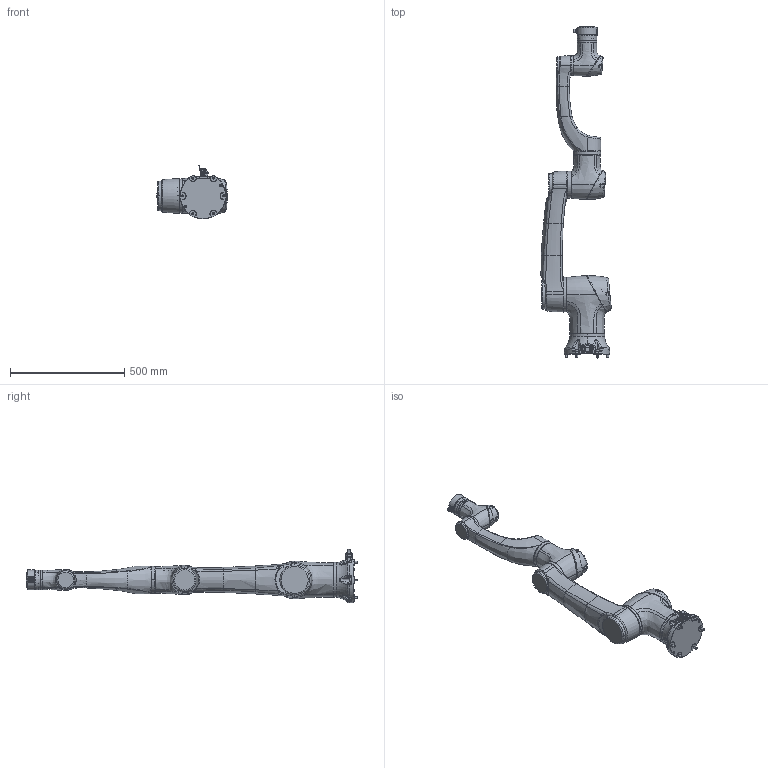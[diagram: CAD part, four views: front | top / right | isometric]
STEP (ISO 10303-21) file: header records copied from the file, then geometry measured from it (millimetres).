
FILE_DESCRIPTION (( 'STEP AP214' ), '1' );
FILE_NAME ('E10、P10-IP66、压铸、总线末端机械手模型_20220707.STEP', '2022-07-29T03:15:49', ( '' ), ( '' ), 'SwSTEP 2.0', 'SolidWorks 2020', '' );
FILE_SCHEMA (( 'AUTOMOTIVE_DESIGN' ));
Length unit declared in the file: millimetre
Products named in the file (66): Part7.1^12B2(2); Elfin_菁釱脣芛; 10kg菁釱耀倰_20220706; Part1^12B2(2)_12B2-带蓝灯-IP67防水-自复红波按钮2; 10kg奻旋耜裔耀倰_20220706; E10F奻旋耀倰_20220706; Part22^12B2(2); Part30^12B2(2); Part22^12B2(2)_12B2-带蓝灯-IP67防水-自复红波按钮2; 10kg狟旋狟耜裔耀倰_20220706; 17藺傷蛌諉輸耀倰_IP66; Part5.1^12B2(2); 17粣藺傷耀倰_IP66_20220707; E10F狟旋郪璃耀倰_20220706; M3x14_IP66_20190806_2.0_CB3-16; 17axial_module_妗极耀倰_20220705; Part6; Part5.1^12B2(2)_12B2-带蓝灯-IP67防水-自复红波按钮2; 5-10kg藺傷俋褲耀倰_IP66; HREF-01-03-33A2 5kg狟旋狟耜裔_IP66; Part28.1.1^12B2(2); 32耀郪妗极耀倰_20220705; 瑤脣蹟譫; Elfin_菁釱郪璃_脣芛裔; 12B2(2); Part13.1.2^12B2(2); 25axial_module_耀倰_20220705; 1419713; Part28.1.1.1^12B2(2); Part13.1.2^12B2(2)_12B2-带蓝灯-IP67防水-自复红波按钮2; Part13.1^12B2(2); GB／T70．1-2000内六角圆柱头螺钉M8×30; Symmetry of Part5^12B2(2)_12B2-带蓝灯-IP67防水-自复红波按钮2; Part16^12B2(2); 12B2(2)^12B2-带蓝灯-IP67防水-自复红波按钮2; HREF-01-04-01-203A1 25模组后端盖_增加锥形孔; 32axial_module_耀倰_20220627; Part30^12B2(2)_12B2-带蓝灯-IP67防水-自复红波按钮2; Part1^12B2(2); hexagon socket head cap screws gb_GB_FASTENER_SCREWS_HSHCS M4X30-N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
Assembly tree (85 placements, depth 5):
  E10、P10-IP66、压铸、总线末端机械手模型_20220707
    10kg菁釱耀倰_20220706
      10kg菁釱耀倰_20220706
      Elfin_菁釱脣芛
        Elfin_菁釱郪璃_脣芛釱
        Elfin_菁釱郪璃_脣芛裔
        Elfin_底座组件_插头卡环
    32axial_module_耀倰_20220627
      32耀郪妗极耀倰_20220705
      32模组后端盖模型_增加锥形孔
      M3x14_IP66_20190806_2.0_CB3-16  x4
    E10F狟旋郪璃耀倰_20220706
      E10F狟旋耀倰_20220706
      HREF-01-03-33A2 5kg狟旋狟耜裔_IP66
      10kg狟旋狟耜裔耀倰_20220706
    25axial_module_耀倰_20220705
      M3x14_IP66_20190806_2.0_CB3-16  x4
      HREF-01-04-01-165A1 25壽誹俋褲YZ
      HREF-01-04-01-203A1 25模组后端盖_增加锥形孔
    E10F奻旋耀倰_20220706
      E10F奻旋耀倰_20220706
      10kg奻旋耜裔耀倰_20220706
    17axial_module_妗极耀倰_20220705
      17粣耀郪妗极耀倰
      HREF-01-04-04-125A1 17模组后端盖_增加锥形孔
      M3x14_IP66_20190806_2.0_CB3-16  x4
    GB／T70．1-2000内六角圆柱头螺钉M8×30  x6
    17粣藺傷耀倰_IP66_20220707
      5-10kg藺傷俋褲耀倰_IP66
      1419713
      12B2-带蓝灯-IP67防水-自复红波按钮
        12B2(2)
          Part7^12B2(2)
          Part5^12B2(2)
          Part5.1^12B2(2)
          Symmetry of Part5^12B2(2)
          Symmetry of Part5.1^12B2(2)
          Part13.1.2^12B2(2)
          Part30^12B2(2)
          Part13.1^12B2(2)
          Part6^12B2(2)
          Part28.1.1^12B2(2)
          Part1^12B2(2)
          Part7.1^12B2(2)
          Part16^12B2(2)
          Part22^12B2(2)
          Part28.1.1.1^12B2(2)
          M12金属按钮开关螺母
      12B2(2)^12B2-带蓝灯-IP67防水-自复红波按钮2
        Part7^12B2(2)_12B2-带蓝灯-IP67防水-自复红波按钮2
        Part5^12B2(2)_12B2-带蓝灯-IP67防水-自复红波按钮2
        Part5.1^12B2(2)_12B2-带蓝灯-IP67防水-自复红波按钮2
        Symmetry of Part5^12B2(2)_12B2-带蓝灯-IP67防水-自复红波按钮2
        Symmetry of Part5.1^12B2(2)_12B2-带蓝灯-IP67防水-自复红波按钮2
        Part13.1.2^12B2(2)_12B2-带蓝灯-IP67防水-自复红波按钮2
        Part30^12B2(2)_12B2-带蓝灯-IP67防水-自复红波按钮2
        Part13.1^12B2(2)_12B2-带蓝灯-IP67防水-自复红波按钮2
        Part6
        Part28.1.1^12B2(2)_12B2-带蓝灯-IP67防水-自复红波按钮2
        Part1^12B2(2)_12B2-带蓝灯-IP67防水-自复红波按钮2
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Bounding box: 307.21 x 1450.2 x 234.41 mm (x, y, z)
Volume: 20944683.6 mm3; surface area: 1326187 mm2
Topology: 77 solids, 79 shells, 5365 faces, 13632 edges, 8544 vertices
Faces by surface type: plane 2418, bspline 1291, cylinder 1011, cone 362, torus 275, sphere 8
Entity records: 342260 total; most frequent: CARTESIAN_POINT 225865, ORIENTED_EDGE 25072, DIRECTION 19001, EDGE_CURVE 12536, VERTEX_POINT 7929, AXIS2_PLACEMENT_3D 6522, LINE 5957, VECTOR 5957
